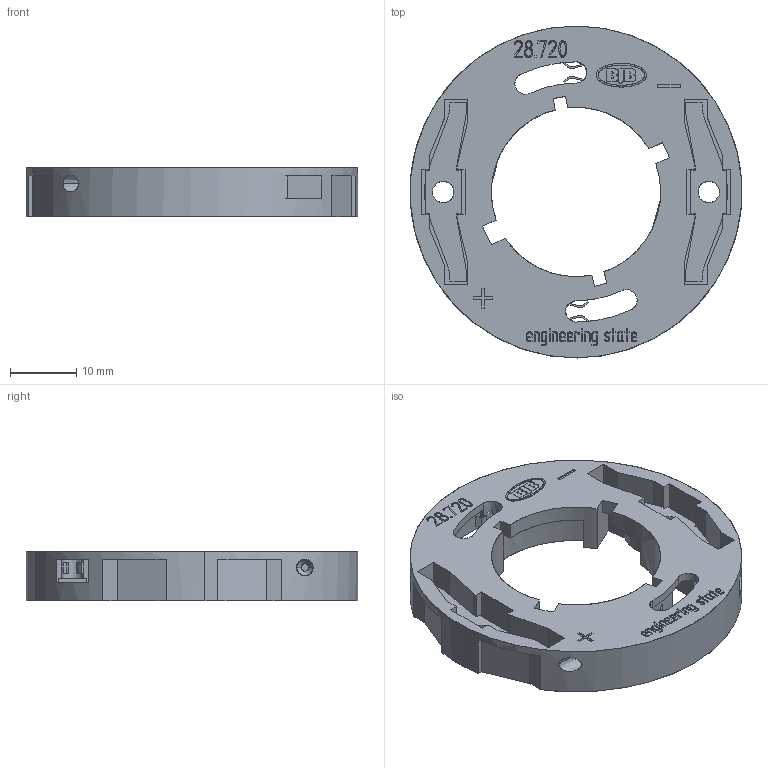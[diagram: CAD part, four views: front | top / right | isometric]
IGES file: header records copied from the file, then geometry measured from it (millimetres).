
Global section: file name: C:\coretechnologie2013\3D-in/01VYU06Y01.igs; native system: CT CoreTechnologie 3D Evolution; preprocessor: 2006; author: assmuth; date: 1140808.090140; units: millimetre
Bounding box: 50 x 50 x 7.45 mm (x, y, z)
Surface area: 8111.6 mm2 (no closed solid volume)
Topology: 0 solids, 0 shells, 602 faces, 3230 edges, 3230 vertices
Faces by surface type: bspline 602
